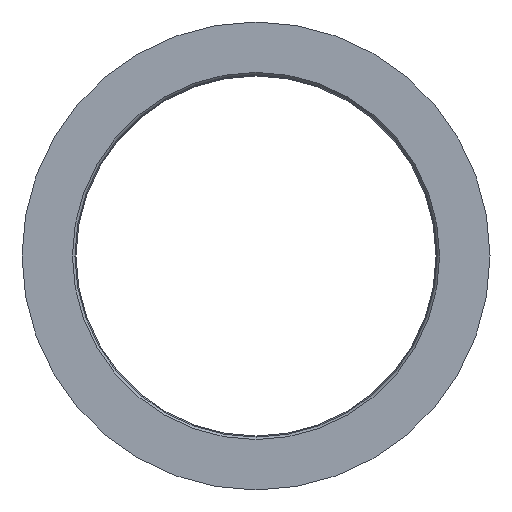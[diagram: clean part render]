
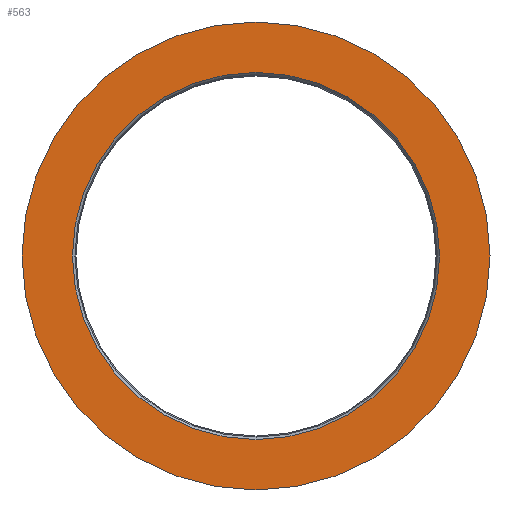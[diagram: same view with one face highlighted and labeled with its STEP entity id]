
A CAD part, left-side view. The second image highlights one B-rep face of the part: STEP entity #563.
In plain terms, the highlighted planar face has unit normal (-1, 0, 0).
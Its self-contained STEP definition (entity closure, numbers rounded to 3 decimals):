
#400=CARTESIAN_POINT('',(0.0,65.0,0.0));
#401=VERTEX_POINT('',#400);
#402=CARTESIAN_POINT('',(0.0,0.0,0.0));
#403=DIRECTION('',(1.0,0.0,0.0));
#404=DIRECTION('',(0.0,1.0,0.0));
#405=AXIS2_PLACEMENT_3D('',#402,#403,#404);
#406=CIRCLE('',#405,65.0);
#407=EDGE_CURVE('',#401,#401,#406,.T.);
#537=CARTESIAN_POINT('',(0.0,51.,0.0));
#538=VERTEX_POINT('',#537);
#539=CARTESIAN_POINT('',(0.0,0.0,0.0));
#540=DIRECTION('',(1.0,0.0,0.0));
#541=DIRECTION('',(0.0,1.0,0.0));
#542=AXIS2_PLACEMENT_3D('',#539,#540,#541);
#543=CIRCLE('',#542,51.);
#544=EDGE_CURVE('',#538,#538,#543,.T.);
#552=CARTESIAN_POINT('',(0.0,58.,0.0));
#553=DIRECTION('',(-1.0,0.0,0.0));
#554=DIRECTION('',(0.0,0.0,1.0));
#555=AXIS2_PLACEMENT_3D('',#552,#553,#554);
#556=PLANE('',#555);
#557=ORIENTED_EDGE('',*,*,#407,.F.);
#558=EDGE_LOOP('',(#557));
#559=FACE_OUTER_BOUND('',#558,.T.);
#560=ORIENTED_EDGE('',*,*,#544,.T.);
#561=EDGE_LOOP('',(#560));
#562=FACE_BOUND('',#561,.T.);
#563=ADVANCED_FACE('',(#559,#562),#556,.T.);
